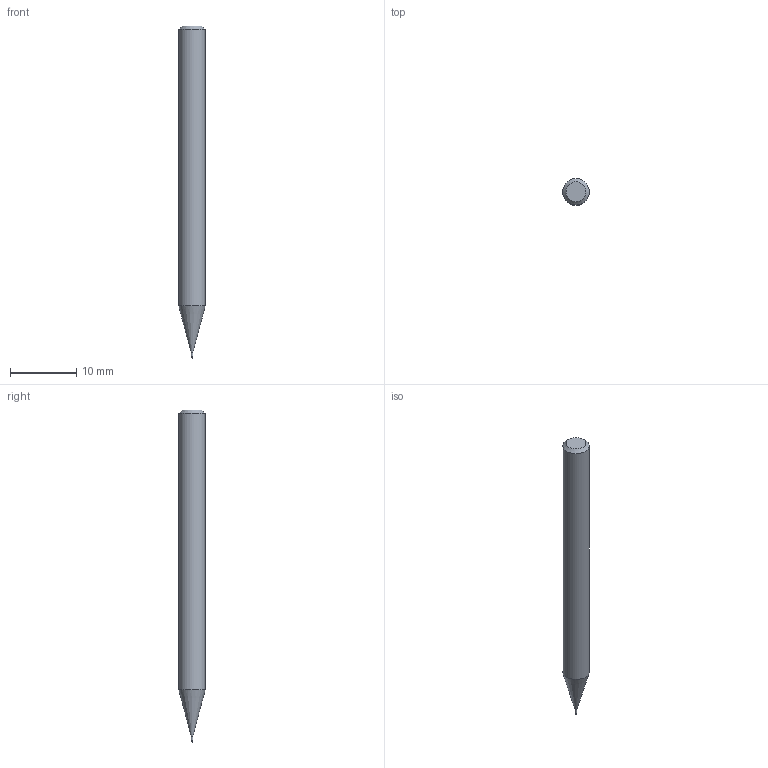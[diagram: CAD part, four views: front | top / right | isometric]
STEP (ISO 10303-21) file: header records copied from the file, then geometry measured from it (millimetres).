
FILE_DESCRIPTION((''),'2;1');
FILE_NAME('C:\Users\nsx150\AppData\Local\Temp\Mastercam 2021\LJSIDMOTM8\TEMP.step','2021-08-03T14:23:45',(''),(''),'STEP Write','Mastercam 2021 ... CNC Software, Inc.','');
FILE_SCHEMA(('AUTOMOTIVE_DESIGN'));
Length unit declared in the file: millimetre
Products named in the file (1): None
Bounding box: 4 x 4 x 50 mm (x, y, z)
Volume: 559.6 mm3; surface area: 587.6 mm2
Topology: 2 solids, 2 shells, 9 faces, 14 edges, 8 vertices
Faces by surface type: plane 3, cylinder 3, cone 2, sphere 1
Full cylindrical faces by diameter (mm): 0.28 x1, 0.3 x1, 4 x1
Entity records: 211 total; most frequent: DIRECTION 36, CARTESIAN_POINT 25, AXIS2_PLACEMENT_3D 18, ORIENTED_EDGE 14, EDGE_LOOP 14, STYLED_ITEM 12, ADVANCED_FACE 9, FACE_BOUND 8
